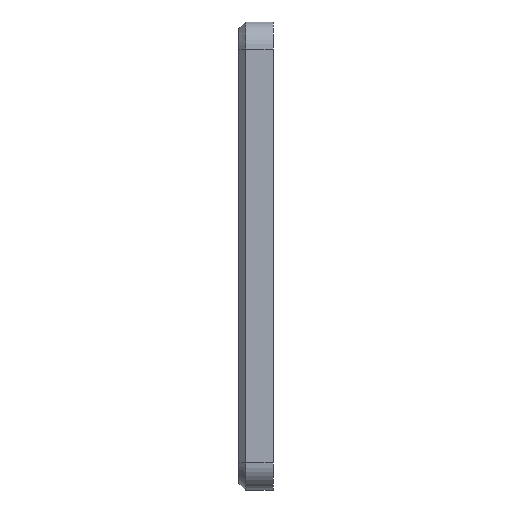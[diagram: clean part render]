
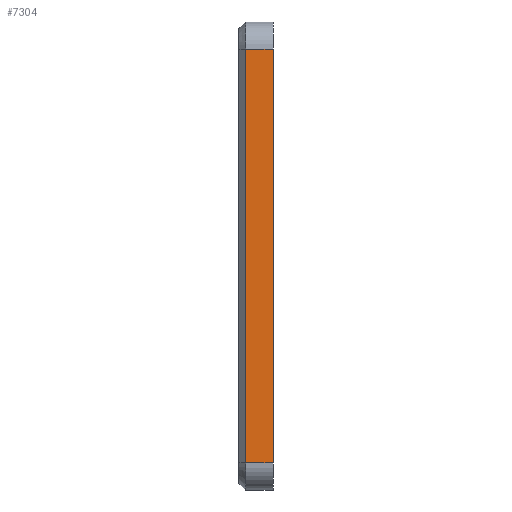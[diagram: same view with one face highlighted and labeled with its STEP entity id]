
A CAD part, left-side view. The second image highlights one B-rep face of the part: STEP entity #7304.
In plain terms, the highlighted planar face has unit normal (-1, 0, 0).
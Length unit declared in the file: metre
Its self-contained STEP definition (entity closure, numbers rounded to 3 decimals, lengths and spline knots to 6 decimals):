
#589=LINE('',#11258,#1348);
#631=LINE('',#11345,#1390);
#632=LINE('',#11349,#1391);
#633=LINE('',#11351,#1392);
#1348=VECTOR('',#8996,1.);
#1390=VECTOR('',#9066,1.);
#1391=VECTOR('',#9071,1.);
#1392=VECTOR('',#9072,1.);
#2474=ORIENTED_EDGE('',*,*,#4539,.F.);
#2475=ORIENTED_EDGE('',*,*,#4540,.T.);
#2476=ORIENTED_EDGE('',*,*,#4537,.T.);
#2477=ORIENTED_EDGE('',*,*,#4493,.T.);
#4493=EDGE_CURVE('',#5532,#5531,#589,.T.);
#4537=EDGE_CURVE('',#5563,#5532,#631,.T.);
#4539=EDGE_CURVE('',#5564,#5531,#632,.T.);
#4540=EDGE_CURVE('',#5564,#5563,#633,.T.);
#5531=VERTEX_POINT('',#11257);
#5532=VERTEX_POINT('',#11259);
#5563=VERTEX_POINT('',#11346);
#5564=VERTEX_POINT('',#11350);
#6196=EDGE_LOOP('',(#2474,#2475,#2476,#2477));
#6657=FACE_BOUND('',#6196,.T.);
#7043=PLANE('',#7880);
#7304=ADVANCED_FACE('',(#6657),#7043,.F.);
#7880=AXIS2_PLACEMENT_3D('',#11348,#9069,#9070);
#8996=DIRECTION('',(0.,0.,1.));
#9066=DIRECTION('',(0.,-1.,0.));
#9069=DIRECTION('',(1.,0.,0.));
#9070=DIRECTION('',(0.,0.,-1.));
#9071=DIRECTION('',(0.,-1.,0.));
#9072=DIRECTION('',(0.,0.,-1.));
#11257=CARTESIAN_POINT('',(-0.1115,-0.001,0.061305));
#11258=CARTESIAN_POINT('',(-0.1115,-0.001,0.));
#11259=CARTESIAN_POINT('',(-0.1115,-0.001,-0.061305));
#11345=CARTESIAN_POINT('',(-0.1115,0.0072,-0.061305));
#11346=CARTESIAN_POINT('',(-0.1115,0.0072,-0.061305));
#11348=CARTESIAN_POINT('',(-0.1115,0.0072,0.));
#11349=CARTESIAN_POINT('',(-0.1115,0.0072,0.061305));
#11350=CARTESIAN_POINT('',(-0.1115,0.0072,0.061305));
#11351=CARTESIAN_POINT('',(-0.1115,0.0072,-0.061305));
